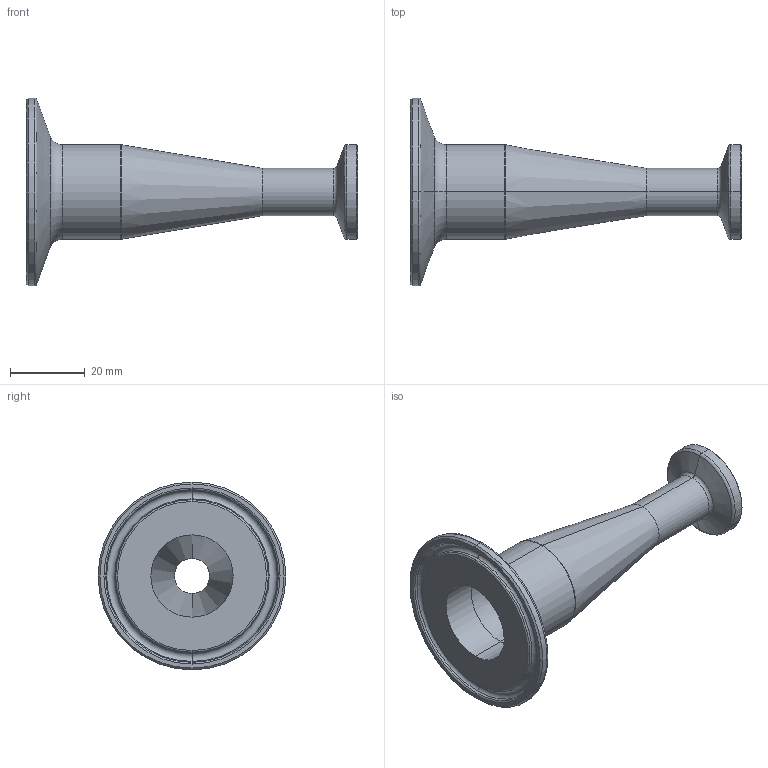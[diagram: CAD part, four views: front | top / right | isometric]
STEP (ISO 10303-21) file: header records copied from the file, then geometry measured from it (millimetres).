
FILE_DESCRIPTION (( 'STEP AP214' ), '1' );
FILE_NAME ('TEG31SCC6I1.0x.5.STEP', '2016-05-29T13:15:32', ( 'eran' ), ( '' ), 'SwSTEP 2.0', 'SolidWorks 2016', '' );
FILE_SCHEMA (( 'AUTOMOTIVE_DESIGN' ));
Length unit declared in the file: millimetre
Products named in the file (1): TEG31SCC6I1.0x.5
Bounding box: 88.9 x 50.39 x 50.39 mm (x, y, z)
Volume: 19133.5 mm3; surface area: 13537.5 mm2
Topology: 1 solids, 1 shells, 58 faces, 116 edges, 62 vertices
Faces by surface type: cone 20, torus 20, cylinder 14, plane 4
Entity records: 1532 total; most frequent: DIRECTION 316, CARTESIAN_POINT 237, ORIENTED_EDGE 232, AXIS2_PLACEMENT_3D 141, EDGE_CURVE 116, CIRCLE 82, EDGE_LOOP 62, VERTEX_POINT 62
